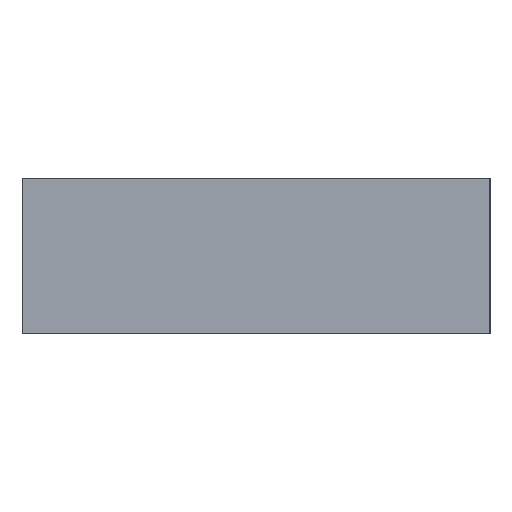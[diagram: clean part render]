
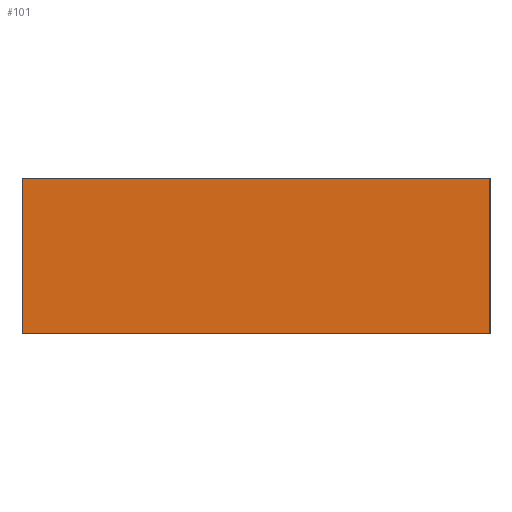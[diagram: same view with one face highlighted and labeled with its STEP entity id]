
A CAD part, left-side view. The second image highlights one B-rep face of the part: STEP entity #101.
In plain terms, the highlighted planar face has unit normal (-1, 0, 0).
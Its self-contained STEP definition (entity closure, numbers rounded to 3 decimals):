
#15=FACE_OUTER_BOUND('',#21,.T.);
#21=EDGE_LOOP('',(#71,#72,#73,#74));
#27=LINE('',#163,#39);
#28=LINE('',#165,#40);
#29=LINE('',#167,#41);
#30=LINE('',#168,#42);
#39=VECTOR('',#137,10.);
#40=VECTOR('',#138,10.);
#41=VECTOR('',#139,10.);
#42=VECTOR('',#140,10.);
#51=VERTEX_POINT('',#161);
#52=VERTEX_POINT('',#162);
#53=VERTEX_POINT('',#164);
#54=VERTEX_POINT('',#166);
#59=EDGE_CURVE('',#51,#52,#27,.T.);
#60=EDGE_CURVE('',#52,#53,#28,.T.);
#61=EDGE_CURVE('',#54,#53,#29,.T.);
#62=EDGE_CURVE('',#51,#54,#30,.T.);
#71=ORIENTED_EDGE('',*,*,#59,.T.);
#72=ORIENTED_EDGE('',*,*,#60,.T.);
#73=ORIENTED_EDGE('',*,*,#61,.F.);
#74=ORIENTED_EDGE('',*,*,#62,.F.);
#95=PLANE('',#127);
#101=ADVANCED_FACE('',(#15),#95,.T.);
#127=AXIS2_PLACEMENT_3D('',#160,#135,#136);
#135=DIRECTION('center_axis',(-1.,0.,0.));
#136=DIRECTION('ref_axis',(0.,-1.,0.));
#137=DIRECTION('',(0.,-1.,0.));
#138=DIRECTION('',(0.,0.,1.));
#139=DIRECTION('',(0.,-1.,0.));
#140=DIRECTION('',(0.,0.,1.));
#160=CARTESIAN_POINT('Origin',(-31.,3.,0.));
#161=CARTESIAN_POINT('',(-31.,3.,0.));
#162=CARTESIAN_POINT('',(-31.,-3.,0.));
#163=CARTESIAN_POINT('',(-31.,3.,0.));
#164=CARTESIAN_POINT('',(-31.,-3.,2.));
#165=CARTESIAN_POINT('',(-31.,-3.,0.));
#166=CARTESIAN_POINT('',(-31.,3.,2.));
#167=CARTESIAN_POINT('',(-31.,3.,2.));
#168=CARTESIAN_POINT('',(-31.,3.,0.));
